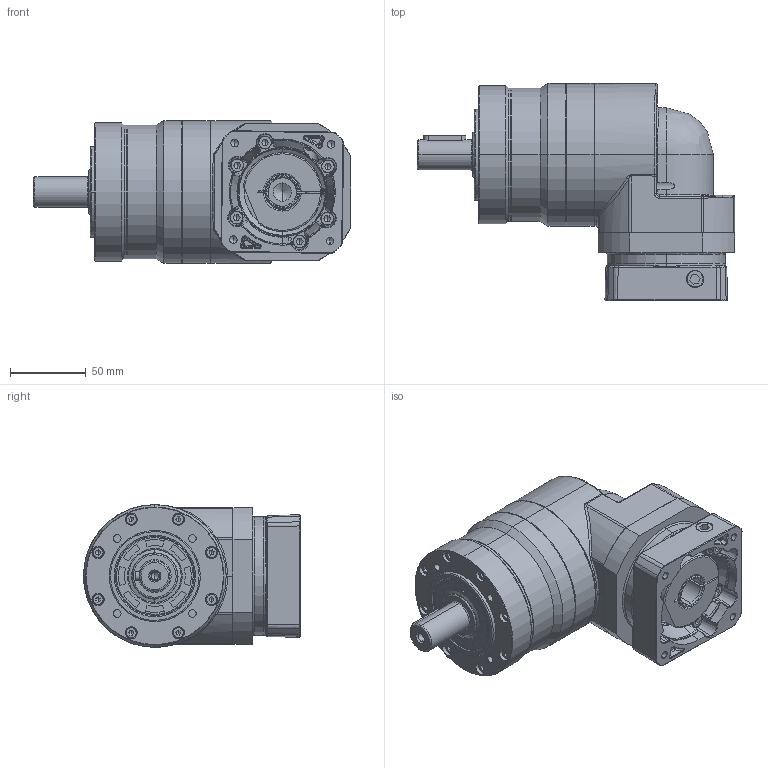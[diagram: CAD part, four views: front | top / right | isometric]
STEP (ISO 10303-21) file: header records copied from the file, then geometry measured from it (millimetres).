
FILE_DESCRIPTION (( 'STEP AP214' ), '1' );
FILE_NAME ('FER090-L1-S2-P1 19-70-90-M6-45.STEP', '2025-02-19T01:47:05', ( '微软用户' ), ( '微软中国' ), 'SwSTEP 2.0', 'SolidWorks 2021', '' );
FILE_SCHEMA (( 'AUTOMOTIVE_DESIGN' ));
Length unit declared in the file: millimetre
Products named in the file (4): 7-FADR090F_________stp_stp.stp.STEP; FER090D-L1-19-70-90-M6-45.STEP; FER090-L1-S2-P1 19-70-90-M6-45; EVT090D-L1-10-80-100-M6-45.STEP
Assembly tree (7 placements, depth 2):
  FER090-L1-S2-P1 19-70-90-M6-45
    FER090D-L1-19-70-90-M6-45.STEP
    7-FADR090F_________stp_stp.stp.STEP
    EVT090D-L1-10-80-100-M6-45.STEP  x5
Bounding box: 209 x 143.02 x 94 mm (x, y, z)
Volume: 242188.5 mm3; surface area: 216553.5 mm2
Topology: 1 solids, 51 shells, 1491 faces, 3699 edges, 2357 vertices
Faces by surface type: cylinder 505, plane 473, bspline 278, cone 229, torus 6
Entity records: 66561 total; most frequent: CARTESIAN_POINT 35934, ORIENTED_EDGE 6593, DIRECTION 5791, EDGE_CURVE 3357, AXIS2_PLACEMENT_3D 2281, VERTEX_POINT 2165, EDGE_LOOP 1523, ADVANCED_FACE 1375
